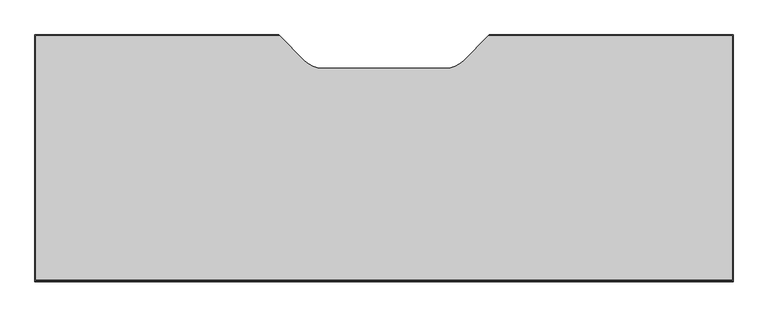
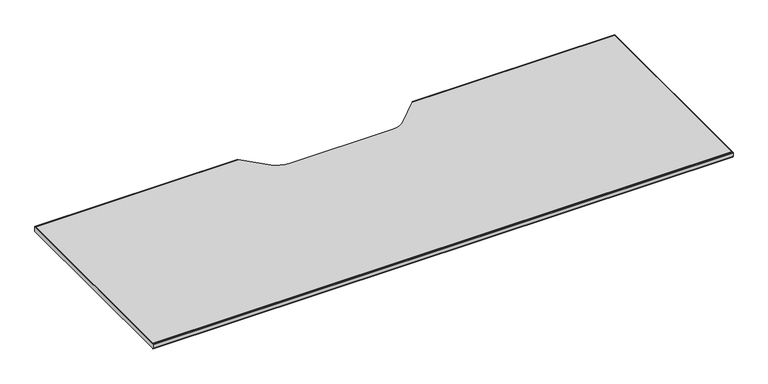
"""IFC4 building model written with IfcOpenShell, lengths in millimetres: furniture geometry, Steelcase Turnstone - Bivi - Table - Table Top : 21D x 60W."""

import ifcopenshell
import ifcopenshell.guid

model = None  # the IFC model being written
_history = None  # IfcOwnerHistory: only IFC2X3 demands one
_inside = {}  # id of a spatial element -> (the spatial element, [elements in it])
_under = {}  # id of a project, library or spatial element -> (it, [spatial elements below it])
_declared = {}  # id of a project -> (the project, [libraries it declares])
_typed = {}  # id of a type object -> (the type object, [elements of that type])
_made_of = {}  # id of a material, layer set ... -> (it, [elements and type objects made of it])


def new_model(schema):
    """Start an empty IFC model of exactly this schema.

    Asked for "IFC4X3", IfcOpenShell would pick the latest addendum, in which some entities
    have other attributes; the version numbers below select the first issue.
    IFC2X3 requires an IfcOwnerHistory on every rooted entity: one is made here for all.
    """
    global model, _history
    if schema == "IFC4X3":
        model = ifcopenshell.file(schema_version=(4, 3, 0, 0))
    else:
        model = ifcopenshell.file(schema=schema)
    _inside.clear()
    _under.clear()
    _declared.clear()
    _typed.clear()
    _made_of.clear()
    _history = None
    if model.schema == "IFC2X3":
        org = make("IfcOrganization", Name="unknown")
        user = make(
            "IfcPersonAndOrganization",
            ThePerson=make("IfcPerson", FamilyName="unknown"),
            TheOrganization=org,
        )
        app = make(
            "IfcApplication",
            ApplicationDeveloper=org,
            Version="unknown",
            ApplicationFullName="unknown",
            ApplicationIdentifier="unknown",
        )
        _history = make(
            "IfcOwnerHistory",
            OwningUser=user,
            OwningApplication=app,
            ChangeAction="ADDED",
            CreationDate=0,
        )
    return model


def make(cls, **values):
    """One entity of the class cls with the attributes given. An attribute that is None is left unset."""
    return model.create_entity(
        cls, **{name: value for name, value in values.items() if value is not None}
    )


def rooted(cls, **values):
    """An entity with a GlobalId (a new one), such as an element, a storey or a relation."""
    return make(cls, GlobalId=ifcopenshell.guid.new(), OwnerHistory=_history, **values)


def si_unit(unit_type, name, prefix=None):
    """IfcSIUnit, for example si_unit("LENGTHUNIT", "METRE", prefix="MILLI")."""
    return make("IfcSIUnit", UnitType=unit_type, Prefix=prefix, Name=name)


def assignment(units):
    """IfcUnitAssignment: the units of a project."""
    return None if units is None else make("IfcUnitAssignment", Units=units)


def point(xyz):
    """IfcCartesianPoint."""
    return None if xyz is None else make("IfcCartesianPoint", Coordinates=xyz)


def direction(xyz):
    """IfcDirection."""
    return None if xyz is None else make("IfcDirection", DirectionRatios=xyz)


def frame(location, z_axis=None, x_axis=None):
    """IfcAxis2Placement3D, a coordinate frame: its origin and axes. An axis left out is left unset."""
    return make(
        "IfcAxis2Placement3D",
        Location=point(location),
        Axis=direction(z_axis),
        RefDirection=direction(x_axis),
    )


def frame_2d(location, x_axis=None):
    """IfcAxis2Placement2D, a coordinate frame in the plane: its origin and x axis."""
    return make(
        "IfcAxis2Placement2D", Location=point(location), RefDirection=direction(x_axis)
    )


def origin():
    """The frame at (0, 0, 0) with its axes left unset."""
    return frame((0.0, 0.0, 0.0))


def place(relative_to, where):
    """IfcLocalPlacement: puts the frame where relative to a parent placement (None: the world)."""
    return make(
        "IfcLocalPlacement", PlacementRelTo=relative_to, RelativePlacement=where
    )


def context(
    kind, dimensions, precision=None, world=None, true_north=None, identifier=None
):
    """IfcGeometricRepresentationContext, for example the 3D "Model" context."""
    return make(
        "IfcGeometricRepresentationContext",
        ContextIdentifier=identifier,
        ContextType=kind,
        CoordinateSpaceDimension=dimensions,
        Precision=precision,
        WorldCoordinateSystem=world,
        TrueNorth=true_north,
    )


def project(units=None, contexts=None):
    """IfcProject with its units and contexts."""
    return rooted(
        "IfcProject",
        Name="project",
        RepresentationContexts=contexts,
        UnitsInContext=assignment(units),
    )


def spatial(cls, under=None, at=None, **own):
    """A site, building, storey or space (cls), placed at a placement, below another one or the project."""
    s = rooted(cls, ObjectPlacement=at, **own)
    if under is not None:
        _under.setdefault(under.id(), (under, []))[1].append(s)
    return s


def polyline(points):
    """IfcPolyline through the points."""
    return make("IfcPolyline", Points=[point(p) for p in points])


def circle_curve(where, radius):
    """IfcCircle in the frame where."""
    return make("IfcCircle", Position=where, Radius=radius)


def trimmed(basis, trim1, trim2, sense, master):
    """IfcTrimmedCurve: the piece of a basis curve between two trims."""
    return make(
        "IfcTrimmedCurve",
        BasisCurve=basis,
        Trim1=trim1,
        Trim2=trim2,
        SenseAgreement=sense,
        MasterRepresentation=master,
    )


def segment(curve, same_sense, transition):
    """IfcCompositeCurveSegment."""
    return make(
        "IfcCompositeCurveSegment",
        Transition=transition,
        SameSense=same_sense,
        ParentCurve=curve,
    )


def composite_curve(segments, self_intersect=None):
    """IfcCompositeCurve: segments joined end to end."""
    return make("IfcCompositeCurve", Segments=segments, SelfIntersect=self_intersect)


def outline(outer, holes=None, kind="AREA"):
    """IfcArbitraryClosedProfileDef: a profile drawn as a closed curve; with holes, ...WithVoids."""
    if holes is None:
        return make("IfcArbitraryClosedProfileDef", ProfileType=kind, OuterCurve=outer)
    return make(
        "IfcArbitraryProfileDefWithVoids",
        ProfileType=kind,
        OuterCurve=outer,
        InnerCurves=holes,
    )


def extrude(swept, where, along, depth):
    """IfcExtrudedAreaSolid: the profile swept, set in the frame where, extruded along a direction by depth."""
    return make(
        "IfcExtrudedAreaSolid",
        SweptArea=swept,
        Position=where,
        ExtrudedDirection=direction(along),
        Depth=depth,
    )


def shape(context_of_items, identifier, shape_type, items):
    """IfcShapeRepresentation: the items that make up one representation, for example the "Body"."""
    return make(
        "IfcShapeRepresentation",
        ContextOfItems=context_of_items,
        RepresentationIdentifier=identifier,
        RepresentationType=shape_type,
        Items=items,
    )


def source(mapping_origin, context_of_items, identifier, shape_type, items):
    """IfcRepresentationMap: a shape defined once, which mapped items show again and again."""
    return make(
        "IfcRepresentationMap",
        MappingOrigin=mapping_origin,
        MappedRepresentation=shape(context_of_items, identifier, shape_type, items),
    )


def transform(
    local_origin,
    x_axis=None,
    y_axis=None,
    z_axis=None,
    scale=None,
    scale2=None,
    scale3=None,
    uniform=True,
):
    """IfcCartesianTransformationOperator3D, or its non-uniform kind. x_axis, y_axis, z_axis: its Axis1, 2, 3."""
    if uniform:
        return make(
            "IfcCartesianTransformationOperator3D",
            Axis1=direction(x_axis),
            Axis2=direction(y_axis),
            LocalOrigin=point(local_origin),
            Scale=scale,
            Axis3=direction(z_axis),
        )
    return make(
        "IfcCartesianTransformationOperator3DnonUniform",
        Axis1=direction(x_axis),
        Axis2=direction(y_axis),
        LocalOrigin=point(local_origin),
        Scale=scale,
        Axis3=direction(z_axis),
        Scale2=scale2,
        Scale3=scale3,
    )


def mapped(mapping_source, mapping_target):
    """IfcMappedItem: shows the shape of a source again, moved by a transform."""
    return make(
        "IfcMappedItem", MappingSource=mapping_source, MappingTarget=mapping_target
    )


def made_of(thing, what):
    """Note that an element or type object is made of a material, layer set ...; save() writes the relation."""
    if what is not None:
        _made_of.setdefault(what.id(), (what, []))[1].append(thing)
    return thing


def element(
    cls,
    number,
    at=None,
    inside=None,
    cuts=None,
    type_object=None,
    material=None,
    context=None,
    identifier="Body",
    shape_type=None,
    held_by="IfcProductDefinitionShape",
    body=None,
    shapes=None,
    **own,
):
    """One element of the class cls, such as IfcWall. Its Tag is "e" and its number.

    at: its placement. inside: the storey or other place that contains it. cuts: it is an
    opening in that element (IfcRelVoidsElement). A single representation is given by context,
    identifier, shape_type and body (its items); several are given by shapes. held_by: the class
    of the entity that holds the representations. save() writes the other relations.
    """
    e = rooted(cls, Tag="e%d" % number, ObjectPlacement=at, **own)
    if body is not None:
        shapes = [shape(context, identifier, shape_type, body)]
    if shapes is not None:
        e.Representation = make(held_by, Representations=shapes)
    if inside is not None:
        _inside.setdefault(inside.id(), (inside, []))[1].append(e)
    if cuts is not None:
        rooted(
            "IfcRelVoidsElement", RelatingBuildingElement=cuts, RelatedOpeningElement=e
        )
    if type_object is not None:
        _typed.setdefault(type_object.id(), (type_object, []))[1].append(e)
    return made_of(e, material)


def aggregate(whole, parts):
    """IfcRelAggregates: a whole, such as a stair, and the parts it consists of."""
    return rooted("IfcRelAggregates", RelatingObject=whole, RelatedObjects=parts)


def save(model, path):
    """Write the relations noted so far, then the file.

    IfcRelAggregates (storeys below a building ...), IfcRelContainedInSpatialStructure (elements
    in a storey), IfcRelDefinesByType, IfcRelAssociatesMaterial and IfcRelDeclares: one each for
    every whole, place, type object, material and project.
    """
    for whole, parts in _under.values():
        aggregate(whole, parts)
    for where, things in _inside.values():
        rooted(
            "IfcRelContainedInSpatialStructure",
            RelatedElements=things,
            RelatingStructure=where,
        )
    for kind, things in _typed.values():
        rooted("IfcRelDefinesByType", RelatedObjects=things, RelatingType=kind)
    for what, things in _made_of.values():
        rooted("IfcRelAssociatesMaterial", RelatedObjects=things, RelatingMaterial=what)
    for by, libraries in _declared.values():
        rooted("IfcRelDeclares", RelatingContext=by, RelatedDefinitions=libraries)
    model.write(path)


def plane_surface(at):
    """IfcPlane: the flat surface through the origin of the frame at, square to its z axis."""
    return make("IfcPlane", Position=at)


def cylinder_surface(at, radius):
    """IfcCylindricalSurface: all points at the distance radius from the z axis of the frame at."""
    return make("IfcCylindricalSurface", Position=at, Radius=radius)


def advanced_brep(points, edges, surfaces, faces):
    """IfcAdvancedBrep: a solid bounded by faces that lie on surfaces and meet in shared edges.

    An edge is (start, end): straight between two places in points (the first is 0);
    or (start, end, curve); or (start, end, curve, False) where it runs against its curve.
    A face is (place in surfaces, loops), or (place, loops, False) where it looks against
    its surface's normal. A loop lists edges by number (the first is 1), with a minus sign
    where the edge is run from its end to its start. The first loop is the outer one.
    """
    corners = [point(p) for p in points]
    vertices = [make("IfcVertexPoint", VertexGeometry=c) for c in corners]
    made = []
    for start, end, *more in edges:
        made.append(
            make(
                "IfcEdgeCurve",
                EdgeStart=vertices[start],
                EdgeEnd=vertices[end],
                EdgeGeometry=more[0] if more else make("IfcPolyline", Points=[corners[start], corners[end]]),
                SameSense=more[1] if len(more) > 1 else True,
            )
        )
    hull = []
    for where, loops, *sense in faces:
        bounds = []
        for j, loop in enumerate(loops):
            ring = [make("IfcOrientedEdge", EdgeElement=made[abs(k) - 1], Orientation=k > 0) for k in loop]
            bounds.append(
                make(
                    "IfcFaceOuterBound" if j == 0 else "IfcFaceBound",
                    Bound=make("IfcEdgeLoop", EdgeList=ring),
                    Orientation=True,
                )
            )
        hull.append(make("IfcAdvancedFace", Bounds=bounds, FaceSurface=surfaces[where], SameSense=sense[0] if sense else True))
    return make("IfcAdvancedBrep", Outer=make("IfcClosedShell", CfsFaces=hull))


def furniture_b97b1277(model_context):
    return source(origin(), model_context, "Body", "SolidModel", [
        advanced_brep(
        [(514.3499939, 727.0750061, 723.566625), (515.3499939, 726.0750061, 723.566625), (515.3499939, 726.0750061, 710.485625), (514.3499939, 727.0750061, 710.485625), (957.8500067, 726.0750061, 723.566625), (958.8500061, 727.0750061, 723.566625), (958.8500061, 727.0750061, 710.485625), (957.8500067, 726.0750061, 710.485625), (1473.2, 727.0750061, 723.566625), (1472.2, 726.0750061, 723.566625), (1472.2, 209.3750061, 723.566625), (1.0, 209.3750061, 723.566625), (1.0, 726.0750061, 723.566625), (0.0, 727.0750061, 723.566625), (0.0, 208.4070061, 723.566625), (1473.2, 208.4070061, 723.566625), (1472.2, 726.0750061, 710.485625), (1472.2, 209.3750061, 710.485625), (1473.2, 727.0750061, 710.485625), (1473.2, 208.4070061, 710.485625), (0.0, 208.4070061, 710.485625), (0.0, 727.0750061, 710.485625), (1.0, 726.0750061, 710.485625), (1.0, 209.3750061, 710.485625), (1473.2, 206.3750061, 721.534625), (1473.2, 206.3750061, 712.517625), (0.0, 206.3750061, 712.517625), (0.0, 206.3750061, 721.534625)],
        [
            (0, 1),
            (1, 2),
            (2, 3),
            (3, 0),
            (4, 5),
            (5, 6),
            (6, 7),
            (7, 4),
            (8, 5),
            (4, 9),
            (9, 10),
            (10, 11),
            (11, 12),
            (12, 1),
            (0, 13),
            (13, 14),
            (14, 15),
            (15, 8),
            (9, 16),
            (16, 17),
            (17, 10),
            (16, 7),
            (6, 18),
            (18, 19),
            (19, 20),
            (20, 21),
            (21, 3),
            (2, 22),
            (22, 23),
            (23, 17),
            (15, 24, circle_curve(frame((1473.2, 208.4070061, 721.534625), z_axis=(1.0, 0.0, 0.0), x_axis=(0.0, 1.0, 0.0)), 2.032)),
            (24, 25),
            (25, 19, circle_curve(frame((1473.2, 208.4070061, 712.517625), z_axis=(1.0, 0.0, 0.0), x_axis=(0.0, 1.0, 0.0)), 2.032)),
            (18, 8),
            (12, 22),
            (21, 13),
            (11, 23),
            (20, 26, circle_curve(frame((0.0, 208.4070061, 712.517625), z_axis=(-1.0, 0.0, 0.0), x_axis=(0.0, 1.0, 0.0)), 2.032)),
            (26, 27),
            (27, 14, circle_curve(frame((0.0, 208.4070061, 721.534625), z_axis=(-1.0, 0.0, 0.0), x_axis=(0.0, 1.0, 0.0)), 2.032)),
            (25, 26),
            (24, 27),
        ],
        [
            plane_surface(frame((514.3499939, 727.0750061, 724.4389999), z_axis=(0.7071067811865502, 0.7071067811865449, 0.0), x_axis=(0.0, 0.0, -1.0))),
            plane_surface(frame((904.6973766, 672.9223408, 724.4389999), z_axis=(-0.7071070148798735, 0.7071065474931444, 0.0), x_axis=(0.0, 0.0, -1.0))),
            plane_surface(frame((1473.2, 209.3750061, 723.566625), z_axis=(0.0, 0.0, 1.0), x_axis=(0.0, 1.0, 0.0))),
            plane_surface(frame((1472.2, 209.3750061, 723.566625), z_axis=(-1.0, 0.0, 0.0), x_axis=(0.0, 1.0, 0.0))),
            plane_surface(frame((1472.2, 209.3750061, 710.485625), z_axis=(0.0, 0.0, -1.0), x_axis=(0.0, 1.0, 0.0))),
            plane_surface(frame((1473.2, 209.3750061, 710.485625), z_axis=(1.0, 0.0, 0.0), x_axis=(0.0, 1.0, 0.0))),
            plane_surface(frame((1472.2, 726.0750061, 723.566625), z_axis=(0.0, -1.0, 0.0), x_axis=(-1.0, 0.0, 0.0))),
            plane_surface(frame((1473.2, 727.0750061, 710.485625), z_axis=(0.0, 1.0, 0.0), x_axis=(-1.0, 0.0, 0.0))),
            plane_surface(frame((1.0, 726.0750061, 723.566625), z_axis=(1.0, 0.0, 0.0), x_axis=(0.0, -1.0, 0.0))),
            plane_surface(frame((0.0, 727.0750061, 710.485625), z_axis=(-1.0, 0.0, 0.0), x_axis=(0.0, -1.0, 0.0))),
            cylinder_surface(frame((0.0, 208.4070061, 712.517625), z_axis=(-1.0, 0.0, 0.0), x_axis=(0.0, 1.0, 0.0)), 2.032),
            plane_surface(frame((0.0, 206.3750061, 712.517625), z_axis=(0.0, -1.0, 0.0), x_axis=(1.0, 0.0, 0.0))),
            cylinder_surface(frame((0.0, 208.4070061, 721.534625), z_axis=(-1.0, 0.0, 0.0), x_axis=(0.0, 1.0, 0.0)), 2.032),
            plane_surface(frame((0.0, 209.3750061, 723.566625), z_axis=(0.0, 1.0, 0.0), x_axis=(1.0, 0.0, 0.0))),
        ],
        [
            (0, [[1, 2, 3, 4]]),
            (1, [[5, 6, 7, 8]]),
            (2, [[9, -5, 10, 11, 12, 13, 14, -1, 15, 16, 17, 18]]),
            (3, [[-11, 19, 20, 21]]),
            (4, [[-20, 22, -7, 23, 24, 25, 26, 27, -3, 28, 29, 30]]),
            (5, [[-18, 31, 32, 33, -24, 34]]),
            (6, [[-19, -10, -8, -22]]),
            (6, [[35, -28, -2, -14]]),
            (7, [[-34, -23, -6, -9]]),
            (7, [[36, -15, -4, -27]]),
            (8, [[-13, 37, -29, -35]]),
            (9, [[-16, -36, -26, 38, 39, 40]]),
            (10, [[-38, -25, -33, 41]]),
            (11, [[-39, -41, -32, 42]]),
            (12, [[-40, -42, -31, -17]]),
            (13, [[-30, -37, -12, -21]]),
        ],
    ),
        extrude(outline(composite_curve([segment(polyline([(1472.2, 726.0750061), (1472.2, 209.3750061), (1.0, 209.3750061), (1.0, 726.0750061), (515.3499939, 726.0750061), (568.512149, 672.912851)]), True, "CONTINUOUS"), segment(trimmed(circle_curve(frame_2d((606.3859497, 710.7866517)), 53.5616426), [point((568.512149, 672.912851))], [point((606.3859497, 657.2250091))], True, "CARTESIAN"), True, "CONTINUOUS"), segment(polyline([(606.3859497, 657.2250091), (866.8006832, 657.2250091)]), True, "CONTINUOUS"), segment(trimmed(circle_curve(frame_2d((866.8006832, 710.8190091)), 53.594), [point((866.8006832, 657.2250091))], [point((904.6973766, 672.9223408))], True, "CARTESIAN"), True, "CONTINUOUS"), segment(polyline([(904.6973766, 672.9223408), (957.8500067, 726.0750061), (1472.2, 726.0750061)]), True, "CONTINUOUS")], self_intersect=False)), frame((0.0, 0.0, 710.485625), z_axis=(0.0, 0.0, 1.0), x_axis=(1.0, 0.0, 0.0)), (0.0, 0.0, 1.0), 13.081),
    ])


if __name__ == "__main__":
    model = new_model("IFC4")
    model_context = context("Model", 3, world=origin())
    ifc_project = project(units=[si_unit("LENGTHUNIT", "METRE", prefix="MILLI")], contexts=[model_context])
    site = spatial("IfcSite", under=ifc_project)
    building = spatial("IfcBuilding", under=site)
    placement = place(None, origin())
    furniture_shape = furniture_b97b1277(model_context)
    element("IfcFurniture", 1, ObjectType="Steelcase Turnstone - Bivi - Table - Table Top : 21D x 60W", at=placement, inside=building, context=model_context, shape_type="MappedRepresentation", body=[
        mapped(furniture_shape, transform((0.0, 0.0, 0.0), x_axis=(1.0, 0.0, 0.0), y_axis=(0.0, 1.0, 0.0), z_axis=(0.0, 0.0, 1.0))),
    ])
    save(model, "model.ifc")
